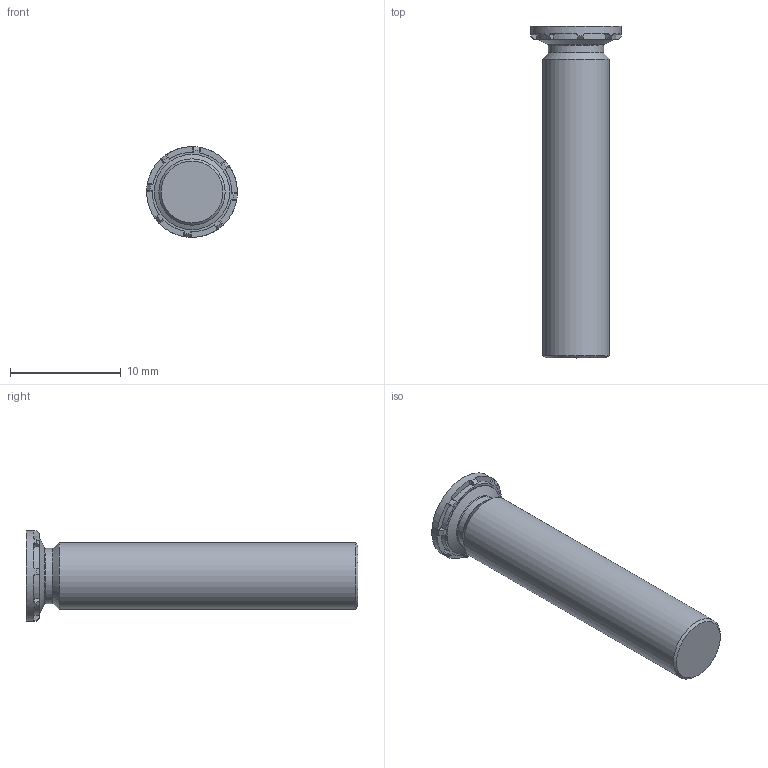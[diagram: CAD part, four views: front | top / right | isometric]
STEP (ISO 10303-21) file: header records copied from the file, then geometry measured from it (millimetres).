
FILE_DESCRIPTION(/* description */ (''),/* implementation_level */ '2;1');
FILE_NAME(/* name */ 'C:\Users\keval.kumar\Desktop\Fastit\Clinch Screw- FH Range\M6\Clinch Screw-FH Range_M6x30.stp',/* time_stamp */ '2024-03-12T12:06:46+06:00',/* author */ ('keval.kumar'),/* organization */ (''),/* preprocessor_version */ 'ST-DEVELOPER v18.1',/* originating_system */ 'Autodesk Inventor 2022',/* authorisation */ '');
FILE_SCHEMA (('AUTOMOTIVE_DESIGN { 1 0 10303 214 3 1 1 }'));
Length unit declared in the file: millimetre
Products named in the file (1): Clinch Screw-FH Range_M6x30
Bounding box: 8.2 x 30 x 8.2 mm (x, y, z)
Volume: 863.2 mm3; surface area: 680 mm2
Topology: 1 solids, 1 shells, 68 faces, 193 edges, 128 vertices
Faces by surface type: plane 43, cylinder 12, cone 11, torus 2
Full cylindrical faces by diameter (mm): 5 x1, 6 x1, 6.8 x1, 8.2 x1
Entity records: 2278 total; most frequent: CARTESIAN_POINT 422, DIRECTION 405, ORIENTED_EDGE 386, EDGE_CURVE 193, AXIS2_PLACEMENT_3D 159, VERTEX_POINT 128, LINE 87, VECTOR 87
